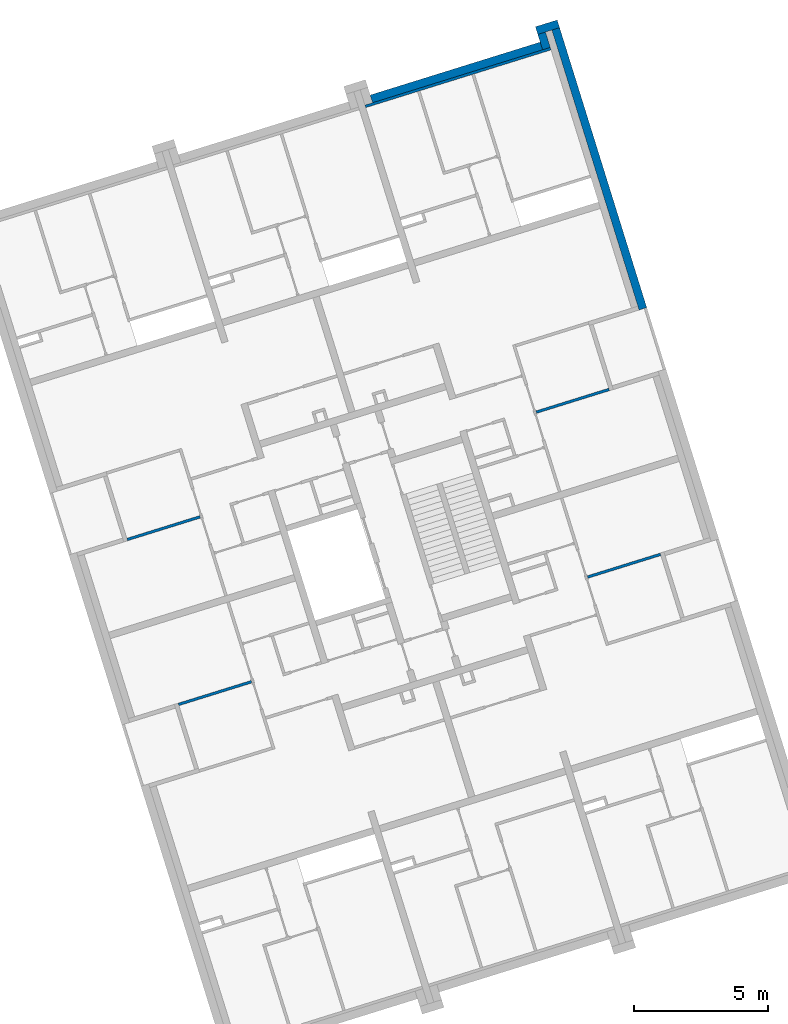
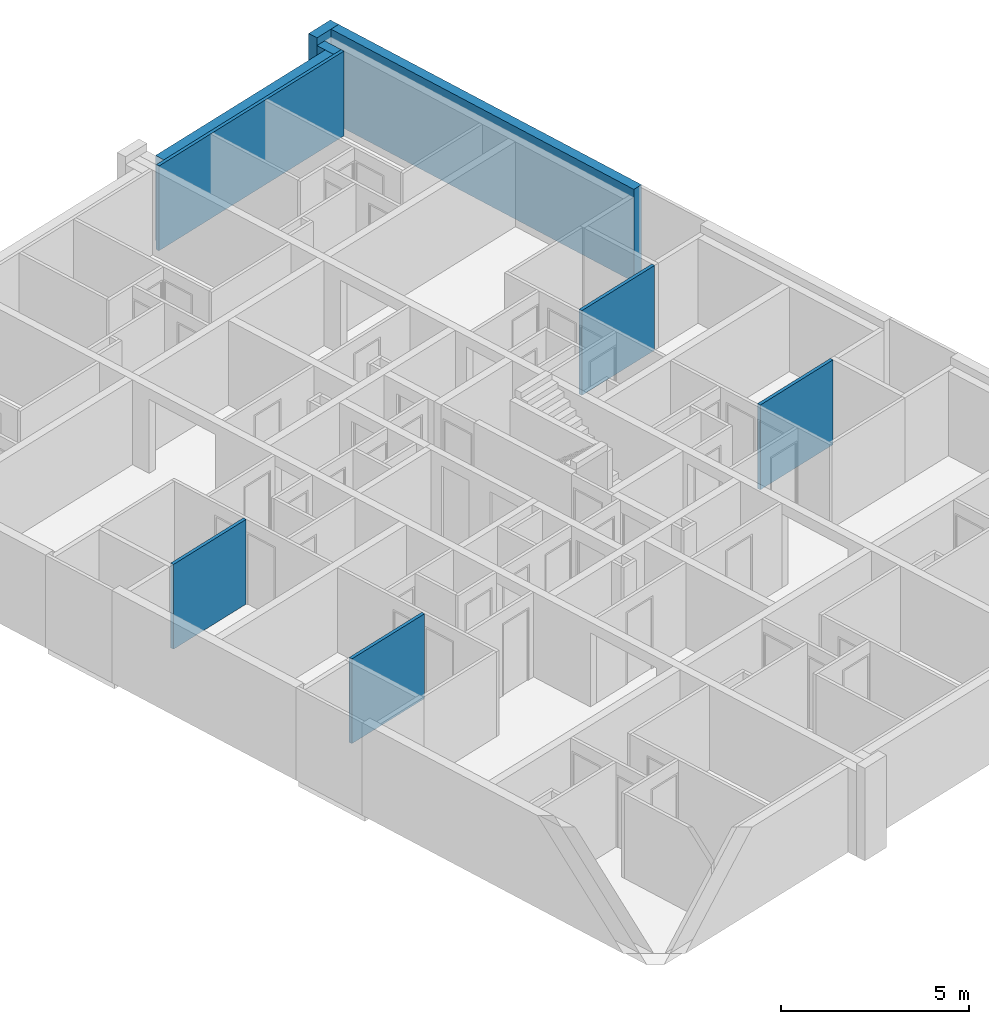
# One storey, part 10 of 12: 9 walls, 4 openings.
"""IFC4 building model written with IfcOpenShell, lengths in metres."""

from ifc_helpers import new_model, entity, si_unit, converted_unit, direction, frame, origin, place, context, subcontext, project, spatial, indexed_curve, outline, extrude, polygons, material, type_object, element, save


model = new_model("IFC4")

# Units and contexts
model_context = context("Model", 3, precision=1e-05, world=origin(), true_north=direction((6.12323399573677e-17, 1.0)))
body_context = subcontext(model_context, "Body", "Model", "MODEL_VIEW")
ifc_project = project(units=[si_unit("LENGTHUNIT", "METRE"), si_unit("AREAUNIT", "SQUARE_METRE"), si_unit("VOLUMEUNIT", "CUBIC_METRE"), converted_unit("PLANEANGLEUNIT", "DEGREE", entity("IfcPlaneAngleMeasure", 0.0174532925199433), si_unit("PLANEANGLEUNIT", "RADIAN"), dimensions=[0, 0, 0, 0, 0, 0, 0])], contexts=[model_context])

# Site, building, storey
site_placement = place(None, frame((13.1347999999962, 11.9886000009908, 0.0), z_axis=(0.0, 0.0, 1.0), x_axis=(0.954770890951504, 0.297342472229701, 0.0)))
site = spatial("IfcSite", under=ifc_project, at=site_placement, Name="Schiehaven", CompositionType="ELEMENT")
building_placement = place(site_placement, origin())
building = spatial("IfcBuilding", under=site, at=building_placement, Name="VORM huis", CompositionType="ELEMENT")
storey_placement = place(building_placement, frame((0.0, 0.0, 3.9)))
storey = spatial("IfcBuildingStorey", under=building, at=storey_placement, Name="01 eerste verdieping", CompositionType="ELEMENT", Elevation=3.9)

# Walls
ifc_material = material(Name="ntb_ntb_ntb", Category="Miscellaneous")
wall_type_1 = type_object("IfcWallType", Name="Basic Wall:21_WA_gevel_binnenspouwwand 100mm_gen", PredefinedType="STANDARD")
wall_1_placement = place(storey_placement, frame((20.1250000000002, 33.075, 0.0)))
element("IfcWall", 1, at=wall_1_placement, inside=storey, type_object=wall_type_1, material=ifc_material, Name="Binnenspouwblad", ObjectType="Wand", PredefinedType="NOTDEFINED", context=body_context, shape_type="SweptSolid", body=[
    extrude(outline(indexed_curve([(7.24999999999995, 0.0499999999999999), (-1.37255262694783e-16, 0.0500000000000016), (1.37255262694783e-16, -0.0500000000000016), (7.24999999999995, -0.0500000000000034), (7.24999999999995, 0.0499999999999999)], self_intersect=False)), origin(), (0.0, 0.0, 1.0), 2.75),
])
wall_type_2 = type_object("IfcWallType", Name="Basic Wall: 300mm_gen", PredefinedType="STANDARD")
wall_2_placement = place(storey_placement, frame((27.7750000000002, 22.7749999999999, 0.0), z_axis=(0.0, 0.0, 1.0), x_axis=(0.0, 1.0, 0.0)))
element("IfcWall", 2, at=wall_2_placement, inside=storey, type_object=wall_type_2, material=ifc_material, Name="Gevelwand", ObjectType="Wand", PredefinedType="NOTDEFINED", context=body_context, shape_type="SweptSolid", body=[
    extrude(outline(indexed_curve([(10.9500000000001, 0.15), (-4.68266866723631e-16, 0.150000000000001), (4.68266866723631e-16, -0.150000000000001), (10.9500000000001, -0.150000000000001), (10.9500000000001, 0.15)], self_intersect=False)), origin(), (0.0, 0.0, 1.0), 3.0),
])
wall_3_placement = place(storey_placement, frame((27.2250000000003, 33.725, 0.0), z_axis=(0.0, 0.0, 1.0), x_axis=(0.0, -1.0, 0.0)))
element("IfcWall", 3, at=wall_3_placement, inside=storey, type_object=wall_type_2, material=ifc_material, Name="Gevelwand", ObjectType="Wand", PredefinedType="NOTDEFINED", context=body_context, shape_type="SweptSolid", body=[
    extrude(outline(indexed_curve([(0.60000000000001, 0.15), (-9.66298299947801e-16, 0.150000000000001), (9.66298299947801e-16, -0.150000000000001), (0.600000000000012, -0.150000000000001), (0.60000000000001, 0.15)], self_intersect=False)), origin(), (0.0, 0.0, 1.0), 2.75),
])
wall_4_placement = place(storey_placement, frame((27.0750000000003, 33.275, 0.0), z_axis=(0.0, 0.0, 1.0), x_axis=(-1.0, 0.0, 0.0)))
element("IfcWall", 4, at=wall_4_placement, inside=storey, type_object=wall_type_2, material=ifc_material, Name="Gevelwand", ObjectType="Wand", PredefinedType="NOTDEFINED", context=body_context, shape_type="SweptSolid", body=[
    extrude(outline(indexed_curve([(6.64999999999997, 0.150000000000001), (-4.90186530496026e-16, 0.150000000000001), (4.90186530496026e-16, -0.150000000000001), (6.64999999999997, -0.15), (6.64999999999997, 0.150000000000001)], self_intersect=False)), origin(), (0.0, 0.0, 1.0), 2.75),
])
wall_5_placement = place(storey_placement, frame((27.9250000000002, 33.875, 0.0), z_axis=(0.0, 0.0, 1.0), x_axis=(-1.0, 0.0, 0.0)))
element("IfcWall", 5, at=wall_5_placement, inside=storey, type_object=wall_type_2, material=ifc_material, Name="Gevelwand", ObjectType="Wand", PredefinedType="NOTDEFINED", context=body_context, shape_type="SweptSolid", body=[
    extrude(outline(indexed_curve([(0.84999999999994, 0.150000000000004), (-6.58211410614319e-16, 0.150000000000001), (6.58211410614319e-16, -0.150000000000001), (0.849999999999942, -0.149999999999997), (0.84999999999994, 0.150000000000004)], self_intersect=False)), origin(), (0.0, 0.0, 1.0), 3.0),
])

# Wall, opening
wall_type_3 = type_object("IfcWallType", Name="Basic Wall:22_WA_afbouw_binnenwand 100mm_gen", PredefinedType="STANDARD")
wall_6_placement = place(storey_placement, frame((9.67500000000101, 13.825, 0.0), z_axis=(0.0, 0.0, 1.0), x_axis=(-1.0, 0.0, 0.0)))
wall_6 = element("IfcWall", 6, at=wall_6_placement, inside=storey, type_object=wall_type_3, material=ifc_material, Name="Binnenwand", ObjectType="Wand", PredefinedType="NOTDEFINED", context=body_context, shape_type="Tessellation", body=[
    polygons([(2.61381720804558e-16, -0.0499999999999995, -5.41433564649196e-16), (2.85000000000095, -0.0500000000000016, -5.41433564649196e-16), (2.85000000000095, -0.0500000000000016, 2.75), (2.61381720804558e-16, -0.0499999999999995, 2.75), (2.61381720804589e-16, -0.0500000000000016, 2.34999999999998), (-6.01073538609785e-26, 0.0499999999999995, -5.41433564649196e-16), (-6.01073538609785e-26, 0.0499999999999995, 2.34999999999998), (-6.01073538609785e-26, 0.0499999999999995, 2.75), (2.85000000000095, 0.0499999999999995, 2.75), (2.85000000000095, 0.0499999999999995, -5.41433564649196e-16)], [[[1, 2, 3, 4, 5]], [[6, 7, 8, 9, 10]], [[2, 1, 6, 10]], [[3, 2, 10, 9]], [[4, 3, 9, 8]], [[1, 5, 4, 8, 7, 6]]], closed=True),
])
opening_1_placement = place(wall_6_placement, origin())
element("IfcOpeningElement", 7, at=opening_1_placement, cuts=wall_6, Name="Binnendeur", PredefinedType="OPENING", context=body_context, shape_type="SweptSolid", body=[
    extrude(outline(indexed_curve([(-0.0499999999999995, -1.17499999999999), (0.0500000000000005, -1.17499999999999), (0.0500000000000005, 1.17499999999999), (-0.0499999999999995, 1.17499999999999), (-0.0499999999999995, -1.17499999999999)], self_intersect=False)), frame((-0.049999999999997, -1.10000000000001, 1.17499999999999), z_axis=(0.0, 1.0, 0.0), x_axis=(1.0, 0.0, 0.0)), (0.0, 0.0, 1.0), 1.05),
])

wall_7_placement = place(storey_placement, frame((22.8249999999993, 13.825, 0.0)))
wall_7 = element("IfcWall", 8, at=wall_7_placement, inside=storey, type_object=wall_type_3, material=ifc_material, Name="Binnenwand", ObjectType="Wand", PredefinedType="NOTDEFINED", context=body_context, shape_type="Tessellation", body=[
    polygons([(-1.1694964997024e-15, -0.0500000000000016, -5.41433564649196e-16), (2.85000000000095, -0.0500000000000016, -5.41433564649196e-16), (2.85000000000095, -0.0500000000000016, 2.75), (-1.1694964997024e-15, -0.0500000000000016, 2.75), (-1.1694964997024e-15, -0.0500000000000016, 2.34999999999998), (-1.7176513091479e-16, 0.0499999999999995, -5.41433564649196e-16), (-1.7176513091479e-16, 0.0499999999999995, 2.34999999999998), (-1.7176513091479e-16, 0.0499999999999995, 2.75), (2.85000000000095, 0.0499999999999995, 2.75), (2.85000000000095, 0.0499999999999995, -5.41433564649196e-16)], [[[1, 2, 3, 4, 5]], [[6, 7, 8, 9, 10]], [[2, 1, 6, 10]], [[3, 2, 10, 9]], [[4, 3, 9, 8]], [[1, 5, 4, 8, 7, 6]]], closed=True),
])
opening_2_placement = place(wall_7_placement, origin())
element("IfcOpeningElement", 9, at=opening_2_placement, cuts=wall_7, Name="Binnendeur", PredefinedType="OPENING", context=body_context, shape_type="SweptSolid", body=[
    extrude(outline(indexed_curve([(-0.0500000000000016, -1.17499999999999), (0.0499999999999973, -1.17499999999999), (0.0499999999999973, 1.17499999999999), (-0.0500000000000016, 1.17499999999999), (-0.0500000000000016, -1.17499999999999)], self_intersect=False)), frame((-0.0500000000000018, 0.050000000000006, 1.17499999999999), z_axis=(0.0, 1.0, 0.0), x_axis=(-1.0, 0.0, 0.0)), (0.0, 0.0, 1.0), 1.05),
])

wall_8_placement = place(storey_placement, frame((22.8249999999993, 20.275, 0.0)))
wall_8 = element("IfcWall", 10, at=wall_8_placement, inside=storey, type_object=wall_type_3, material=ifc_material, Name="Binnenwand", ObjectType="Wand", PredefinedType="NOTDEFINED", context=body_context, shape_type="Tessellation", body=[
    polygons([(-1.0293113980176e-15, -0.0499999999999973, -5.41433564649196e-16), (2.85000000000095, -0.049999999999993, -5.41433564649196e-16), (2.85000000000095, -0.049999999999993, 2.75), (-1.0293113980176e-15, -0.0499999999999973, 2.75), (-1.0293113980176e-15, -0.0499999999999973, 2.34999999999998), (1.66942080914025e-15, 0.0500000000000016, -5.41433564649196e-16), (1.66942080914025e-15, 0.0500000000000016, 2.34999999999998), (1.66942080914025e-15, 0.0500000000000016, 2.75), (2.85000000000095, 0.050000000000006, 2.75), (2.85000000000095, 0.050000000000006, -5.41433564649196e-16)], [[[1, 2, 3, 4, 5]], [[6, 7, 8, 9, 10]], [[2, 1, 6, 10]], [[3, 2, 10, 9]], [[4, 3, 9, 8]], [[1, 5, 4, 8, 7, 6]]], closed=True),
])
opening_3_placement = place(wall_8_placement, origin())
element("IfcOpeningElement", 11, at=opening_3_placement, cuts=wall_8, Name="Binnendeur", PredefinedType="OPENING", context=body_context, shape_type="SweptSolid", body=[
    extrude(outline(indexed_curve([(-0.0499999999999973, -1.17499999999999), (0.0500000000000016, -1.17499999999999), (0.0500000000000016, 1.17499999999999), (-0.0499999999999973, 1.17499999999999), (-0.0499999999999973, -1.17499999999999)], self_intersect=False)), frame((-0.0499999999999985, -1.1, 1.17499999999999), z_axis=(0.0, 1.0, 0.0), x_axis=(1.0, 0.0, 0.0)), (0.0, 0.0, 1.0), 1.05),
])

wall_9_placement = place(storey_placement, frame((9.67500000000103, 20.275, 0.0), z_axis=(0.0, 0.0, 1.0), x_axis=(-1.0, 0.0, 0.0)))
wall_9 = element("IfcWall", 12, at=wall_9_placement, inside=storey, type_object=wall_type_3, material=ifc_material, Name="Binnenwand", ObjectType="Wand", PredefinedType="NOTDEFINED", context=body_context, shape_type="Tessellation", body=[
    polygons([(-7.9936461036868e-16, -0.0499999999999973, -5.41433564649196e-16), (2.85000000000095, -0.0500000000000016, -5.41433564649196e-16), (2.85000000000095, -0.0500000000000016, 2.75), (-7.9936461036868e-16, -0.0499999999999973, 2.75), (-7.9936461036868e-16, -0.0499999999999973, 2.34999999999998), (-1.02822955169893e-16, 0.0500000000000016, -5.41433564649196e-16), (-1.02822955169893e-16, 0.0500000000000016, 2.34999999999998), (-1.02822955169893e-16, 0.0500000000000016, 2.75), (2.85000000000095, 0.0499999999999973, 2.75), (2.85000000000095, 0.0499999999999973, -5.41433564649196e-16)], [[[1, 2, 3, 4, 5]], [[6, 7, 8, 9, 10]], [[2, 1, 6, 10]], [[3, 2, 10, 9]], [[4, 3, 9, 8]], [[1, 5, 4, 8, 7, 6]]], closed=True),
])
opening_4_placement = place(wall_9_placement, origin())
element("IfcOpeningElement", 13, at=opening_4_placement, cuts=wall_9, Name="Binnendeur", PredefinedType="OPENING", context=body_context, shape_type="SweptSolid", body=[
    extrude(outline(indexed_curve([(-0.0500000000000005, -1.17499999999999), (0.0500000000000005, -1.17499999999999), (0.0500000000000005, 1.17499999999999), (-0.0500000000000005, 1.17499999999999), (-0.0500000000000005, -1.17499999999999)], self_intersect=False)), frame((-0.0500000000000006, 0.0500000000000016, 1.17499999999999), z_axis=(0.0, 1.0, 0.0), x_axis=(-1.0, 0.0, 0.0)), (0.0, 0.0, 1.0), 1.05),
])

save(model, "model.ifc")
